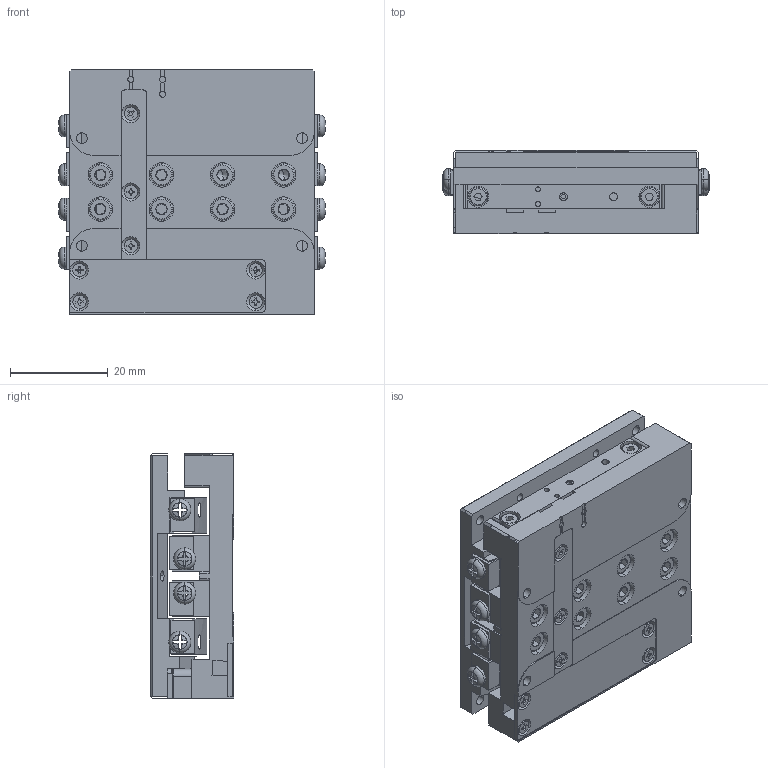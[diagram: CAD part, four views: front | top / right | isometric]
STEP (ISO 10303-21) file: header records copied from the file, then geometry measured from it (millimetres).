
FILE_DESCRIPTION (( 'STEP AP214' ), '1' );
FILE_NAME ('NH5010-002-00 ぇ啊怢77.5.STEP', '2025-05-07T02:33:33', ( '' ), ( '' ), 'SwSTEP 2.0', 'SolidWorks 2023', '' );
FILE_SCHEMA (( 'AUTOMOTIVE_DESIGN' ));
Length unit declared in the file: millimetre
Products named in the file (1): NH5010-002-00 偏摆台77.5
Bounding box: 54.6 x 17 x 50 mm (x, y, z)
Surface area: 17749.1 mm2 (no closed solid volume)
Topology: 0 solids, 49 shells, 837 faces, 3036 edges, 2089 vertices
Faces by surface type: plane 493, cylinder 202, cone 70, torus 56, sphere 16
Entity records: 43144 total; most frequent: CARTESIAN_POINT 8728, DIRECTION 5240, ORIENTED_EDGE 4694, EDGE_CURVE 3026, VERTEX_POINT 2089, AXIS2_PLACEMENT_3D 1783, VECTOR 1674, LINE 1674
